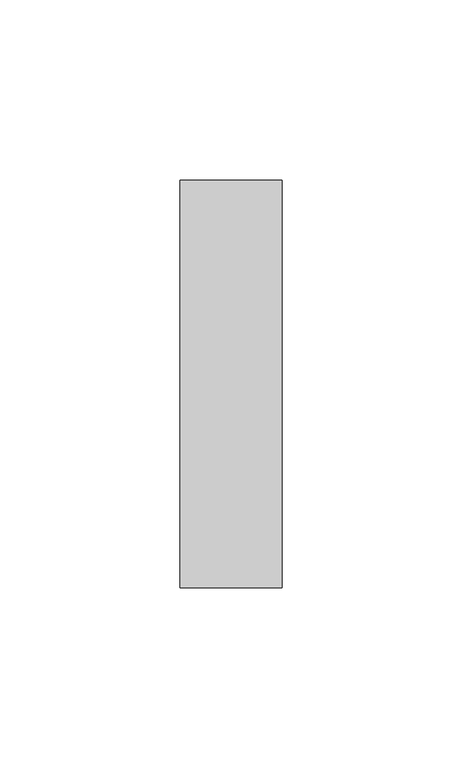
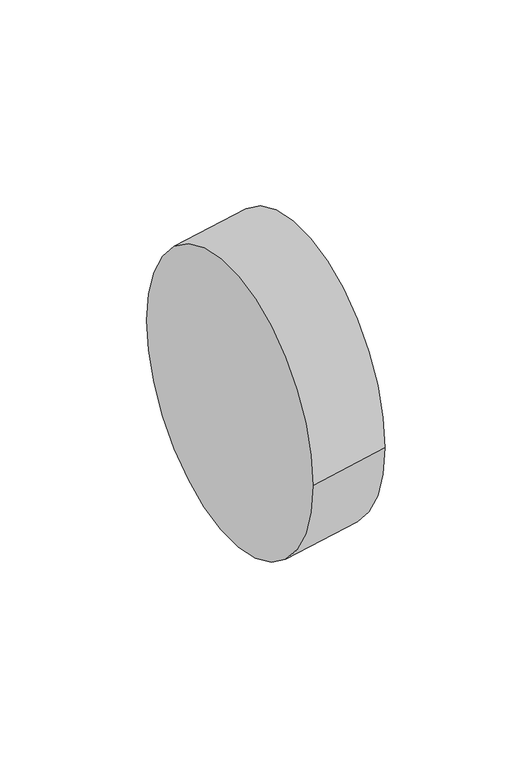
"""IFC4 building model written with IfcOpenShell, lengths in millimetres: pipe fitting geometry, M_Transición - Genérica : Estándar."""

from ifc_helpers import new_model, si_unit, point, frame, origin, place, context, project, spatial, circle_curve, trimmed, source, transform, mapped, element, save
from ifc_brep_helpers import plane_surface, extruded_surface, advanced_brep


def pipe_fitting_c8b3499b(model_context):
    return source(origin(), model_context, "Body", "AdvancedBrep", [
        advanced_brep(
        [(28.29375, -56.5632847, 5.8461742), (28.29375, 56.6117153, 5.8461742), (0.0, -56.5875, 0.0), (0.0, 56.5875, 0.0)],
        [
            (0, 1, circle_curve(frame((28.29375, 0.0242153, 5.8461742), z_axis=(1.0, 0.0, 0.0), x_axis=(0.0, 1.0, 0.0)), 56.5875)),
            (1, 0, circle_curve(frame((28.29375, 0.0242153, 5.8461742), z_axis=(1.0, 0.0, 0.0), x_axis=(0.0, 1.0, 0.0)), 56.5875)),
            (2, 3, circle_curve(frame((0.0, 0.0, 0.0), z_axis=(-1.0, 0.0, 0.0), x_axis=(0.0, 1.0, 0.0)), 56.5875)),
            (3, 2, circle_curve(frame((0.0, 0.0, 0.0), z_axis=(-1.0, 0.0, 0.0), x_axis=(0.0, 1.0, 0.0)), 56.5875)),
            (3, 1),
            (0, 2),
        ],
        [
            plane_surface(frame((28.29375, 0.0242153, 5.8461742), z_axis=(1.0, 0.0, 0.0), x_axis=(0.0, 0.0, -1.0))),
            plane_surface(frame((0.0, 0.0, 0.0), z_axis=(-1.0, 0.0, 0.0), x_axis=(0.0, 0.0, -1.0))),
            extruded_surface(trimmed(circle_curve(frame((0.0, 0.0, 0.0), z_axis=(1.0, 0.0, 0.0), x_axis=(0.0, 1.0, 0.0)), 56.5875), [point((0.0, -56.5875, 0.0))], [point((0.0, 56.5875, 0.0))], True, "CARTESIAN"), (28.29375, 0.0242153, 5.8461742), 28.89142828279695),
            extruded_surface(trimmed(circle_curve(frame((0.0, 0.0, 0.0), z_axis=(1.0, 0.0, 0.0), x_axis=(0.0, 1.0, 0.0)), 56.5875), [point((0.0, 56.5875, 0.0))], [point((0.0, -56.5875, 0.0))], True, "CARTESIAN"), (28.29375, 0.0242153, 5.8461742), 28.89142828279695),
        ],
        [
            (0, [[1, 2]]),
            (1, [[3, 4]]),
            (2, [[-4, 5, -1, 6]]),
            (3, [[-3, -6, -2, -5]]),
        ],
    ),
    ])


if __name__ == "__main__":
    model = new_model("IFC4")
    model_context = context("Model", 3, world=origin())
    ifc_project = project(units=[si_unit("LENGTHUNIT", "METRE", prefix="MILLI")], contexts=[model_context])
    site = spatial("IfcSite", under=ifc_project)
    building = spatial("IfcBuilding", under=site)
    placement = place(None, origin())
    pipe_fitting_shape = pipe_fitting_c8b3499b(model_context)
    element("IfcPipeFitting", 1, ObjectType="M_Transición - Genérica : Estándar", at=placement, inside=building, context=model_context, shape_type="MappedRepresentation", body=[
        mapped(pipe_fitting_shape, transform((0.0, 0.0, 0.0), x_axis=(1.0, 0.0, 0.0), y_axis=(0.0, 1.0, 0.0), z_axis=(0.0, 0.0, 1.0))),
    ])
    save(model, "model.ifc")
